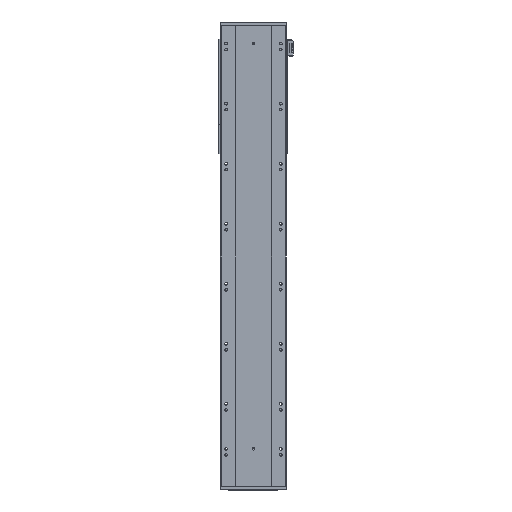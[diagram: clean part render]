
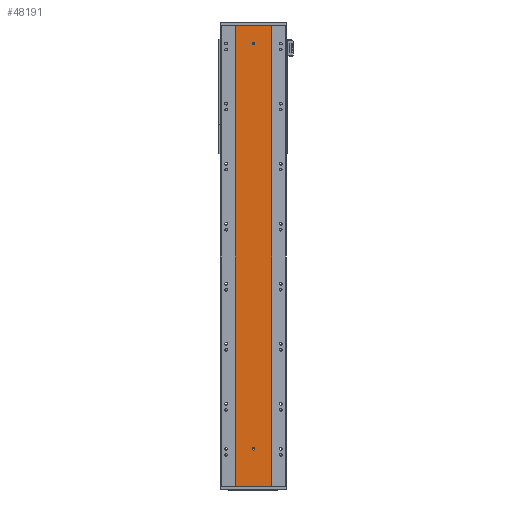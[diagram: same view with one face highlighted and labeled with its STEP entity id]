
A CAD part, front view. The second image highlights one B-rep face of the part: STEP entity #48191.
In plain terms, the highlighted planar face has unit normal (0, -1, 0).
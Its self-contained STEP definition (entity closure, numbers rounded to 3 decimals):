
#913 = DIRECTION ( 'NONE',  ( 0., 0., -1. ) ) ;
#1013 = DIRECTION ( 'NONE',  ( 0., 0., -1. ) ) ;
#1131 = CARTESIAN_POINT ( 'NONE',  ( 60., 0., 1535. ) ) ;
#1682 = CARTESIAN_POINT ( 'NONE',  ( -60., 0., 1535. ) ) ;
#1869 = ORIENTED_EDGE ( 'NONE', *, *, #4657, .F. ) ;
#2051 = LINE ( 'NONE', #58989, #26265 ) ;
#2504 = AXIS2_PLACEMENT_3D ( 'NONE', #14575, #57566, #14164 ) ;
#2775 = AXIS2_PLACEMENT_3D ( 'NONE', #24906, #29807, #39311 ) ;
#3686 = ORIENTED_EDGE ( 'NONE', *, *, #10381, .F. ) ;
#4657 = EDGE_CURVE ( 'NONE', #38775, #48109, #17393, .T. ) ;
#5852 = CARTESIAN_POINT ( 'NONE',  ( 0., 0., 125. ) ) ;
#6216 = CARTESIAN_POINT ( 'NONE',  ( 0., 0., 129. ) ) ;
#7563 = DIRECTION ( 'NONE',  ( 0., 1., 0. ) ) ;
#7693 = VERTEX_POINT ( 'NONE', #53713 ) ;
#8740 = CIRCLE ( 'NONE', #23303, 4. ) ;
#10381 = EDGE_CURVE ( 'NONE', #7693, #44656, #57855, .T. ) ;
#12012 = DIRECTION ( 'NONE',  ( 0., 0., 1. ) ) ;
#12098 = DIRECTION ( 'NONE',  ( 0., 0., -1. ) ) ;
#12654 = AXIS2_PLACEMENT_3D ( 'NONE', #60487, #7563, #12012 ) ;
#13109 = VERTEX_POINT ( 'NONE', #62474 ) ;
#14164 = DIRECTION ( 'NONE',  ( 0., 0., -1. ) ) ;
#14575 = CARTESIAN_POINT ( 'NONE',  ( 0., 0., 1475. ) ) ;
#15132 = DIRECTION ( 'NONE',  ( 0., 0., -1. ) ) ;
#16416 = EDGE_LOOP ( 'NONE', ( #45536, #39978 ) ) ;
#17393 = LINE ( 'NONE', #32916, #59814 ) ;
#18244 = VERTEX_POINT ( 'NONE', #6216 ) ;
#19171 = EDGE_CURVE ( 'NONE', #13109, #18244, #27242, .T. ) ;
#22311 = VERTEX_POINT ( 'NONE', #43147 ) ;
#23303 = AXIS2_PLACEMENT_3D ( 'NONE', #36238, #41110, #12098 ) ;
#24205 = CARTESIAN_POINT ( 'NONE',  ( 0., 0., 1479. ) ) ;
#24906 = CARTESIAN_POINT ( 'NONE',  ( 0., 0., 125. ) ) ;
#26265 = VECTOR ( 'NONE', #1013, 1000. ) ;
#27013 = CIRCLE ( 'NONE', #2775, 4. ) ;
#27242 = CIRCLE ( 'NONE', #38215, 4. ) ;
#29807 = DIRECTION ( 'NONE',  ( 0., -1., 0. ) ) ;
#30054 = CARTESIAN_POINT ( 'NONE',  ( -60., 0., 0. ) ) ;
#32139 = PLANE ( 'NONE',  #12654 ) ;
#32916 = CARTESIAN_POINT ( 'NONE',  ( -60., 0., 1535. ) ) ;
#33583 = FACE_BOUND ( 'NONE', #16416, .T. ) ;
#33811 = VECTOR ( 'NONE', #913, 1000. ) ;
#35871 = FACE_BOUND ( 'NONE', #39822, .T. ) ;
#36238 = CARTESIAN_POINT ( 'NONE',  ( 0., 0., 1475. ) ) ;
#36249 = ORIENTED_EDGE ( 'NONE', *, *, #39707, .F. ) ;
#36905 = VERTEX_POINT ( 'NONE', #48064 ) ;
#37060 = ORIENTED_EDGE ( 'NONE', *, *, #43636, .F. ) ;
#38215 = AXIS2_PLACEMENT_3D ( 'NONE', #5852, #44154, #15132 ) ;
#38700 = EDGE_CURVE ( 'NONE', #22311, #36905, #58129, .T. ) ;
#38775 = VERTEX_POINT ( 'NONE', #1682 ) ;
#39311 = DIRECTION ( 'NONE',  ( 0., 0., -1. ) ) ;
#39707 = EDGE_CURVE ( 'NONE', #48109, #36905, #46678, .T. ) ;
#39822 = EDGE_LOOP ( 'NONE', ( #3686, #37060 ) ) ;
#39978 = ORIENTED_EDGE ( 'NONE', *, *, #62049, .F. ) ;
#41110 = DIRECTION ( 'NONE',  ( 0., -1., 0. ) ) ;
#43147 = CARTESIAN_POINT ( 'NONE',  ( -60., 0., 0. ) ) ;
#43636 = EDGE_CURVE ( 'NONE', #44656, #7693, #8740, .T. ) ;
#44154 = DIRECTION ( 'NONE',  ( 0., -1., 0. ) ) ;
#44656 = VERTEX_POINT ( 'NONE', #24205 ) ;
#45536 = ORIENTED_EDGE ( 'NONE', *, *, #19171, .F. ) ;
#46299 = ORIENTED_EDGE ( 'NONE', *, *, #38700, .T. ) ;
#46678 = LINE ( 'NONE', #1131, #33811 ) ;
#48064 = CARTESIAN_POINT ( 'NONE',  ( 60., 0., 0. ) ) ;
#48109 = VERTEX_POINT ( 'NONE', #59450 ) ;
#48191 = ADVANCED_FACE ( 'NONE', ( #35871, #33583, #57775 ), #32139, .F. ) ;
#52077 = VECTOR ( 'NONE', #53953, 1000. ) ;
#53713 = CARTESIAN_POINT ( 'NONE',  ( 0., 0., 1471. ) ) ;
#53953 = DIRECTION ( 'NONE',  ( 1., 0., 0. ) ) ;
#56416 = EDGE_LOOP ( 'NONE', ( #46299, #36249, #1869, #61340 ) ) ;
#57022 = DIRECTION ( 'NONE',  ( 1., 0., 0. ) ) ;
#57566 = DIRECTION ( 'NONE',  ( 0., -1., 0. ) ) ;
#57775 = FACE_OUTER_BOUND ( 'NONE', #56416, .T. ) ;
#57855 = CIRCLE ( 'NONE', #2504, 4. ) ;
#58129 = LINE ( 'NONE', #30054, #52077 ) ;
#58989 = CARTESIAN_POINT ( 'NONE',  ( -60., 0., 1535. ) ) ;
#59450 = CARTESIAN_POINT ( 'NONE',  ( 60., 0., 1535. ) ) ;
#59814 = VECTOR ( 'NONE', #57022, 1000. ) ;
#60487 = CARTESIAN_POINT ( 'NONE',  ( -60., 0., 1535. ) ) ;
#61340 = ORIENTED_EDGE ( 'NONE', *, *, #62028, .T. ) ;
#62028 = EDGE_CURVE ( 'NONE', #38775, #22311, #2051, .T. ) ;
#62049 = EDGE_CURVE ( 'NONE', #18244, #13109, #27013, .T. ) ;
#62474 = CARTESIAN_POINT ( 'NONE',  ( 0., 0., 121. ) ) ;
